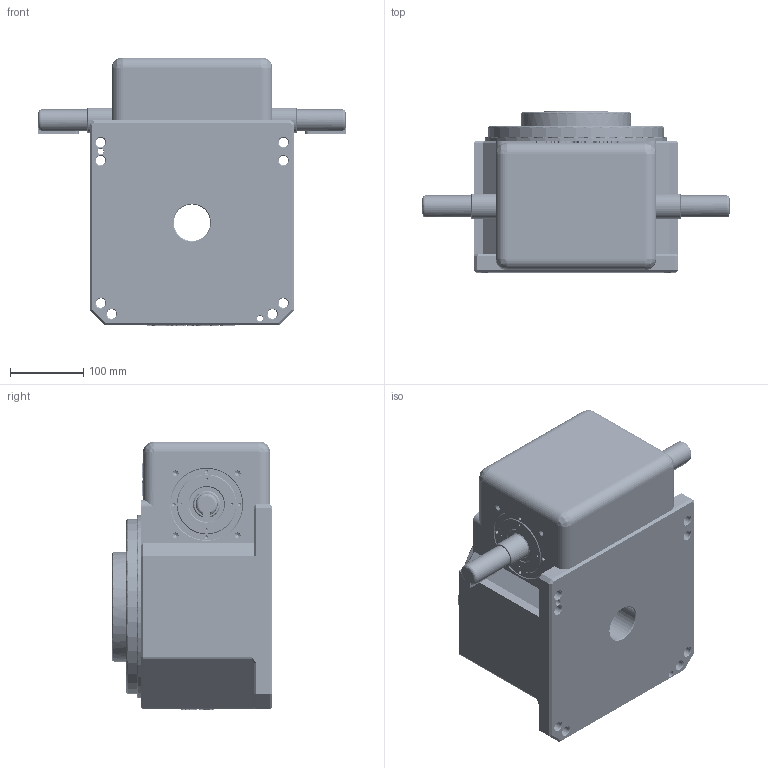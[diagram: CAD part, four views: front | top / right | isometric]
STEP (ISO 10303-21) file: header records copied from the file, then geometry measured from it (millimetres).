
FILE_DESCRIPTION (( 'STEP AP214' ), '1' );
FILE_NAME ('ER-RU140DT英锐凸轮分割器3D固定盘壳体和法兰面加销孔标准图纸(电话15062628977)AA.STEP', '2022-08-24T10:05:03', ( '微软用户' ), ( '微软中国' ), 'SwSTEP 2.0', 'SolidWorks 2017', '' );
FILE_SCHEMA (( 'AUTOMOTIVE_DESIGN' ));
Length unit declared in the file: millimetre
Products named in the file (1): ER-RU140DT英锐凸轮分割器3D固定盘壳体和法兰面加销孔标准图纸(电话15062628977)AA
Bounding box: 420 x 220 x 368 mm (x, y, z)
Volume: 16891208.3 mm3; surface area: 512025.8 mm2
Topology: 1 solids, 1 shells, 2733 faces, 7577 edges, 4901 vertices
Faces by surface type: plane 1112, cylinder 815, bspline 520, cone 286
Entity records: 181113 total; most frequent: CARTESIAN_POINT 118381, ORIENTED_EDGE 14946, DIRECTION 9727, EDGE_CURVE 7473, VERTEX_POINT 4901, LINE 4373, VECTOR 4373, EDGE_LOOP 2914
